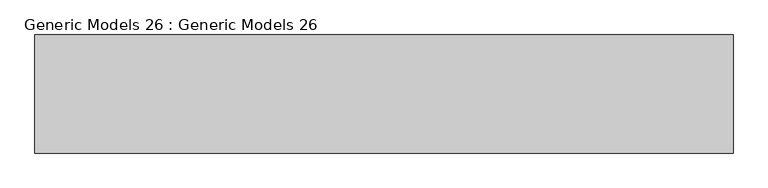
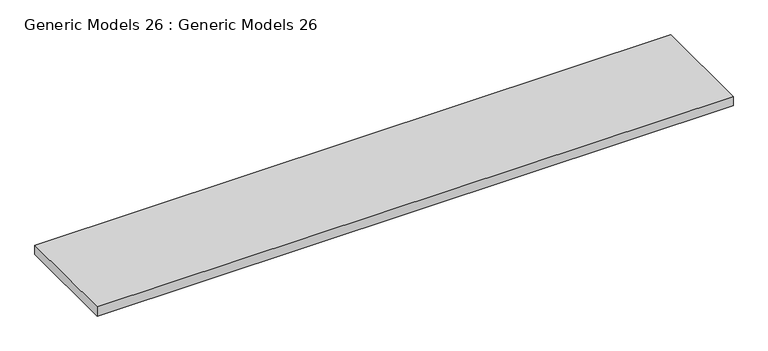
"""IFC4 building model written with IfcOpenShell, lengths in millimetres: furniture geometry, Generic Models 26 : Generic Models 26."""

from ifc_helpers import new_model, si_unit, frame, origin, place, context, project, spatial, polyline, outline, extrude, source, transform, mapped, element, save


def generic_models_26_generic_models_26_58412322(model_context):
    return source(origin(), model_context, "Body", "SweptSolid", [
        extrude(outline(polyline([(2425.7, 10185.4), (2425.7, 10464.6947939), (4076.7, 10464.6947939), (4076.7, 10185.4), (2425.7, 10185.4)])), frame((0.0, 0.0, 5410.2), z_axis=(0.0, 0.0, 1.0), x_axis=(1.0, 0.0, 0.0)), (0.0, 0.0, 1.0), 25.4),
    ])


if __name__ == "__main__":
    model = new_model("IFC4")
    model_context = context("Model", 3, world=origin())
    ifc_project = project(units=[si_unit("LENGTHUNIT", "METRE", prefix="MILLI")], contexts=[model_context])
    site = spatial("IfcSite", under=ifc_project)
    building = spatial("IfcBuilding", under=site)
    placement = place(None, origin())
    generic_models_26_generic_models_26_shape = generic_models_26_generic_models_26_58412322(model_context)
    element("IfcFurniture", 1, ObjectType="Generic Models 26 : Generic Models 26", at=placement, inside=building, context=model_context, shape_type="MappedRepresentation", body=[
        mapped(generic_models_26_generic_models_26_shape, transform((0.0, 0.0, 0.0), x_axis=(1.0, 0.0, 0.0), y_axis=(0.0, 1.0, 0.0), z_axis=(0.0, 0.0, 1.0))),
    ])
    save(model, "model.ifc")
